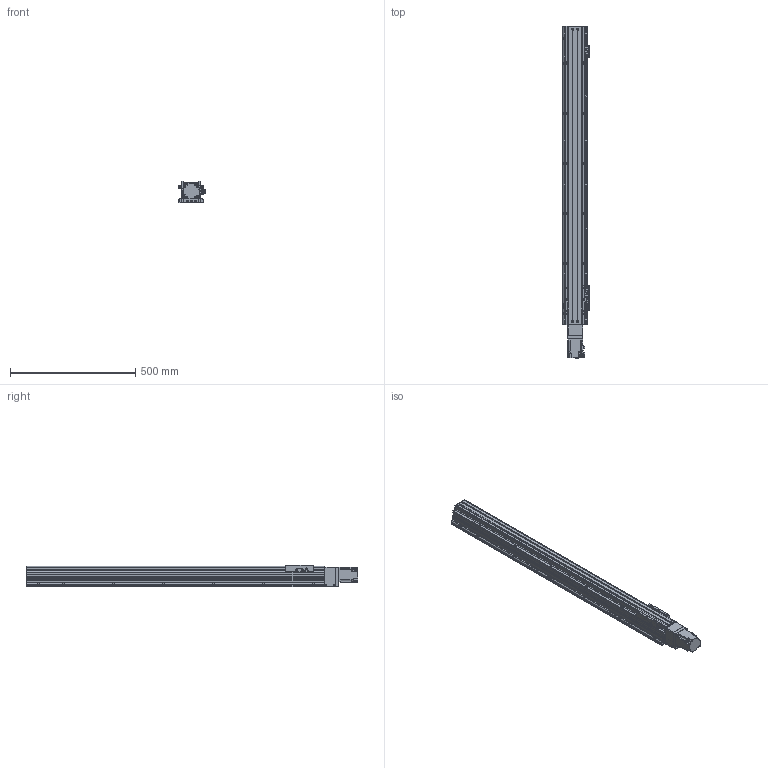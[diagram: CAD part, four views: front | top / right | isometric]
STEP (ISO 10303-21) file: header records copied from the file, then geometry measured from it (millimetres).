
FILE_DESCRIPTION(/* description */ ('MANUFACTURE'),/* implementation_level */ '2;1');
FILE_NAME(/* name */ '\\192.168.0.160\disk1\HAN SHIN Master\B-설계부문\C-표준\B-2024년\BC02-표준도면\+로봇 개선표준도면\표준 승인도 폴더 - 재작업\3D\HS Type\HS75\S-Type\HS75-S20-N1B-1000-R10.stp',/* time_stamp */ '2024-05-08T14:57:10+09:00',/* author */ ('User'),/* organization */ (''),/* preprocessor_version */ 'ST-DEVELOPER v18.1',/* originating_system */ 'Autodesk Inventor 2022',/* authorisation */ 'LIP');
FILE_SCHEMA (('AUTOMOTIVE_DESIGN { 1 0 10303 214 3 1 1 }'));
Products named in the file (28): HS75-S20-N1B-0500-R10 - 간소화; HS75 100W S BASE; UPCOVER; HS75 REAR BLOCK; SDWA-31C-10x14(00-00); HS75 FRONT BLOCK-AN; HS75 FRONT BLOCK; 7001ADF; BEARING COVER(∅15); SPACER(∅15); RN12; HS75 FRONT COVER; HS75 FRONT COVER_1; COUPLING COVER; HS75 SIDE COVER; HS75 SENSOR DOG-1; NIPPLE CAP(신규); hsr_ftht_A-M6F_grease_nipple_joint; SENSOR BRK(EE-SX674A); EE_SX674A; M3-5(렌치볼트); HG75 S MOTOR PLATE-B; HG75 S MOTOR PLATE-M; hg-kr23_; HG90STOPPER - 17L; LMKE1520 NUT; HS75 TABLE - 1BLOCK; HS75 SIDE COVER (100W, 1B)_MIR
Assembly tree (37 placements, depth 3):
  HS75-S20-N1B-0500-R10 - 간소화
    HS75 100W S BASE
    UPCOVER
    HS75 REAR BLOCK
    SDWA-31C-10x14(00-00)
    HS75 FRONT BLOCK-AN
      HS75 FRONT BLOCK
      7001ADF
      BEARING COVER(∅15)
      SPACER(∅15)
      RN12
    HS75 FRONT COVER
    HS75 FRONT COVER_1
    HG90STOPPER - 17L  x2
    COUPLING COVER
    SENSOR BRK(EE-SX674A)  x3
    EE_SX674A  x3
    hsr_ftht_A-M6F_grease_nipple_joint  x2
    NIPPLE CAP(신규)  x2
    HS75 SIDE COVER
    HS75 SENSOR DOG-1
    M3-5(렌치볼트)  x4
    HG75 S MOTOR PLATE-B
    HG75 S MOTOR PLATE-M
    hg-kr23_
    LMKE1520 NUT
    HS75 TABLE - 1BLOCK
    HS75 SIDE COVER (100W, 1B)_MIR
Bounding box: 105.96 x 1325.6 x 85 mm (x, y, z)
Volume: 3198154.1 mm3; surface area: 1105968.2 mm2
Topology: 59 solids, 59 shells, 2173 faces, 6053 edges, 3951 vertices
Faces by surface type: plane 1082, cylinder 763, cone 208, torus 74, sphere 38, bspline 8
Full cylindrical faces by diameter (mm): 2.013 x2, 2.459 x20, 2.85 x4, 3 x12, 3.1 x1, 3.242 x52, 3.3 x2, 3.5 x6, 4 x18, 4.134 x44, 4.5 x45, 4.917 x15, 5 x28, 5.5 x16, 5.6 x10, 5.8 x4, 5.9 x10, 6 x6, 6.05 x4, 6.45 x6, 6.5 x4, 7.2 x2, 7.5 x4, 8 x7, 9.5 x10, 10 x1, 10.8 x1, 12 x3, 14 x2, 14.4 x3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
Entity records: 64960 total; most frequent: CARTESIAN_POINT 13747, DIRECTION 10690, ORIENTED_EDGE 10310, EDGE_CURVE 5155, AXIS2_PLACEMENT_3D 3947, VERTEX_POINT 3517, LINE 2796, VECTOR 2796
